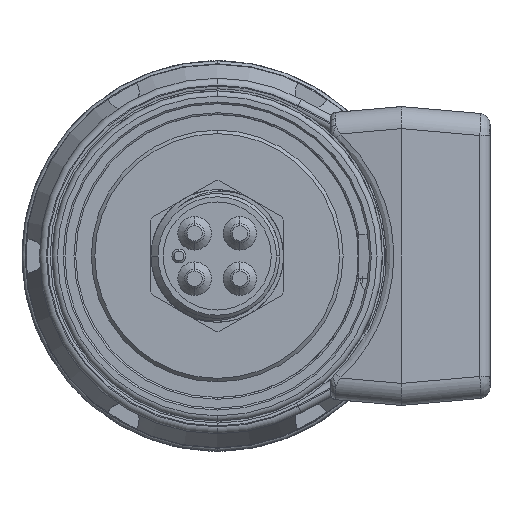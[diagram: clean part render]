
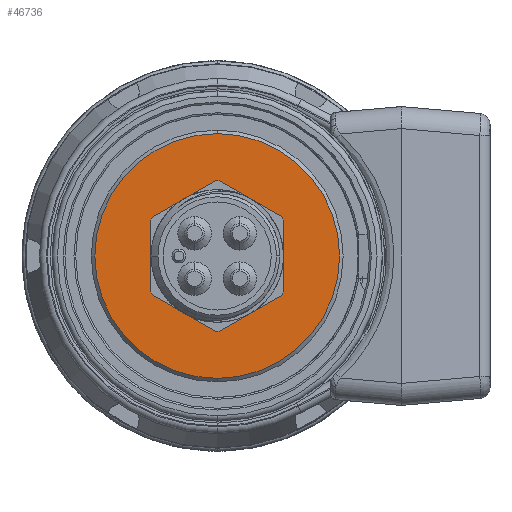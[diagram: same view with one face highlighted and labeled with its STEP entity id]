
A CAD part, left-side view. The second image highlights one B-rep face of the part: STEP entity #46736.
In plain terms, the highlighted planar face has unit normal (-1, 0, 0).
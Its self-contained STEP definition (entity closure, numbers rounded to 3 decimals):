
#596 = FACE_BOUND ( 'NONE', #47111, .T. ) ;
#637 = AXIS2_PLACEMENT_3D ( 'NONE', #34323, #30602, #18467 ) ;
#894 = ORIENTED_EDGE ( 'NONE', *, *, #28988, .T. ) ;
#2776 = AXIS2_PLACEMENT_3D ( 'NONE', #16704, #24153, #31832 ) ;
#3046 = DIRECTION ( 'NONE',  ( 1., 0., 0. ) ) ;
#3075 = AXIS2_PLACEMENT_3D ( 'NONE', #43118, #46594, #13623 ) ;
#3836 = ORIENTED_EDGE ( 'NONE', *, *, #8745, .T. ) ;
#4620 = CARTESIAN_POINT ( 'NONE',  ( -24.663, 0., -17.551 ) ) ;
#5811 = EDGE_LOOP ( 'NONE', ( #18835, #894 ) ) ;
#6226 = CIRCLE ( 'NONE', #42672, 5.753 ) ;
#6747 = VERTEX_POINT ( 'NONE', #4620 ) ;
#8043 = ORIENTED_EDGE ( 'NONE', *, *, #48554, .T. ) ;
#8394 = CARTESIAN_POINT ( 'NONE',  ( -24.663, -5.753, 0. ) ) ;
#8745 = EDGE_CURVE ( 'NONE', #12524, #43458, #9908, .T. ) ;
#9908 = CIRCLE ( 'NONE', #2776, 5.753 ) ;
#10508 = CARTESIAN_POINT ( 'NONE',  ( -24.663, 0., 0. ) ) ;
#11043 = PLANE ( 'NONE',  #637 ) ;
#11139 = DIRECTION ( 'NONE',  ( -1., 0., 0. ) ) ;
#12524 = VERTEX_POINT ( 'NONE', #32150 ) ;
#13623 = DIRECTION ( 'NONE',  ( 0., 0., 1. ) ) ;
#15734 = FACE_OUTER_BOUND ( 'NONE', #5811, .T. ) ;
#16704 = CARTESIAN_POINT ( 'NONE',  ( -24.663, 0., 0. ) ) ;
#18467 = DIRECTION ( 'NONE',  ( 0., 0., 1. ) ) ;
#18491 = AXIS2_PLACEMENT_3D ( 'NONE', #45060, #11139, #18816 ) ;
#18816 = DIRECTION ( 'NONE',  ( 0., 0., 1. ) ) ;
#18835 = ORIENTED_EDGE ( 'NONE', *, *, #45411, .T. ) ;
#23863 = CARTESIAN_POINT ( 'NONE',  ( -24.663, 0., 17.551 ) ) ;
#24153 = DIRECTION ( 'NONE',  ( 1., 0., 0. ) ) ;
#28988 = EDGE_CURVE ( 'NONE', #48843, #6747, #42994, .T. ) ;
#30602 = DIRECTION ( 'NONE',  ( -1., 0., 0. ) ) ;
#31832 = DIRECTION ( 'NONE',  ( 0., 1., 0. ) ) ;
#32150 = CARTESIAN_POINT ( 'NONE',  ( -24.663, 5.753, 0. ) ) ;
#34323 = CARTESIAN_POINT ( 'NONE',  ( -24.663, 0., 0. ) ) ;
#41853 = CIRCLE ( 'NONE', #3075, 17.551 ) ;
#42672 = AXIS2_PLACEMENT_3D ( 'NONE', #10508, #3046, #43944 ) ;
#42994 = CIRCLE ( 'NONE', #18491, 17.551 ) ;
#43118 = CARTESIAN_POINT ( 'NONE',  ( -24.663, 0., 0. ) ) ;
#43458 = VERTEX_POINT ( 'NONE', #8394 ) ;
#43944 = DIRECTION ( 'NONE',  ( 0., 1., 0. ) ) ;
#45060 = CARTESIAN_POINT ( 'NONE',  ( -24.663, 0., 0. ) ) ;
#45411 = EDGE_CURVE ( 'NONE', #6747, #48843, #41853, .T. ) ;
#46594 = DIRECTION ( 'NONE',  ( -1., 0., 0. ) ) ;
#46736 = ADVANCED_FACE ( 'NONE', ( #596, #15734 ), #11043, .T. ) ;
#47111 = EDGE_LOOP ( 'NONE', ( #3836, #8043 ) ) ;
#48554 = EDGE_CURVE ( 'NONE', #43458, #12524, #6226, .T. ) ;
#48843 = VERTEX_POINT ( 'NONE', #23863 ) ;
